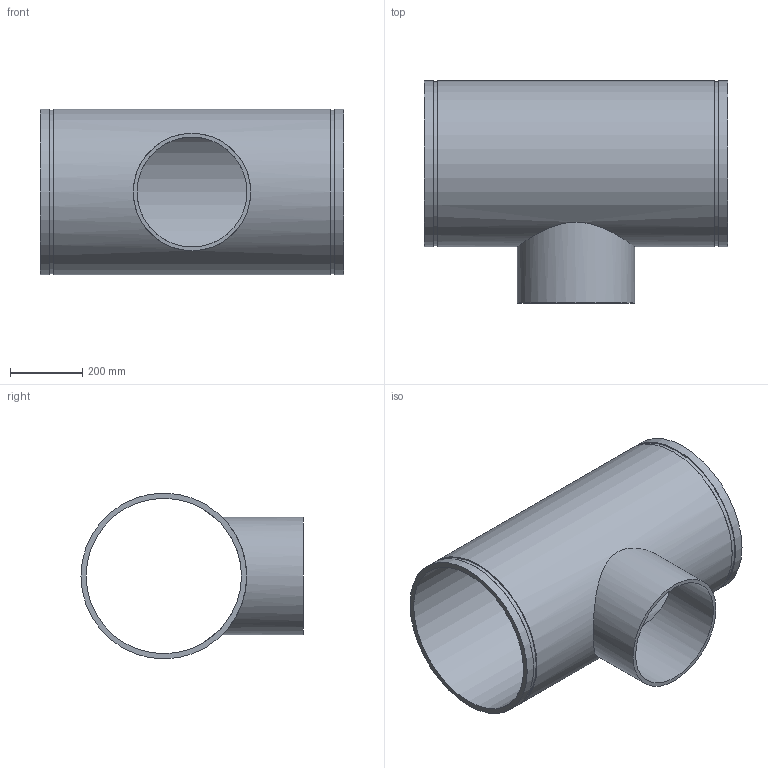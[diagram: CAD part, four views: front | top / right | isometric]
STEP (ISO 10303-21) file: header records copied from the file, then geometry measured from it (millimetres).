
FILE_DESCRIPTION(/* description */ ('VIC REDUCING TEE No 29T FFT (OGSxMPT)','CAx-IF Rec.Pracs.---Representation and Presentation of Product Manufacturing Information (PMI)---4.0---2014-10-13'),/* implementation_level */ '2;1');
FILE_NAME(/* name */ 'C:\Users\kkamble\AppData\Roaming\Autodesk\ApplicationPlugins\Back Up\Victaulic_IPS_Tee Reducing_No 29T FFT (OGSxMPT)\Victaulic_IPS_Tee Reducing_No 29T FFT (OGSxMPT)_18.0x12.0 (450x300).stp',/* time_stamp */ '2020-09-16T22:40:14+05:00',/* author */ ('CORINNE GRAY'),/* organization */ ('Victaulic'),/* preprocessor_version */ 'ST-DEVELOPER v17.2',/* originating_system */ 'Autodesk Inventor 2019',/* authorisation */ '');
FILE_SCHEMA (('AP242_MANAGED_MODEL_BASED_3D_ENGINEERING_MIM_LF { 1 0 10303 442 1 1 4 }'));
Length unit declared in the file: inch
Products named in the file (1): 29 FFT-18.0x12.0
Bounding box: 838.2 x 612.9 x 457.2 mm (x, y, z)
Volume: 17353993.9 mm3; surface area: 2612918.6 mm2
Topology: 1 solids, 1 shells, 15 faces, 32 edges, 24 vertices
Faces by surface type: cylinder 8, plane 7
Full cylindrical faces by diameter (mm): 303.225 x1, 323.85 x1, 428.6 x1, 451.637 x2, 457.2 x3
Entity records: 741 total; most frequent: CARTESIAN_POINT 253, DIRECTION 106, ORIENTED_EDGE 64, AXIS2_PLACEMENT_3D 49, EDGE_CURVE 32, EDGE_LOOP 24, VERTEX_POINT 24, CIRCLE 20
